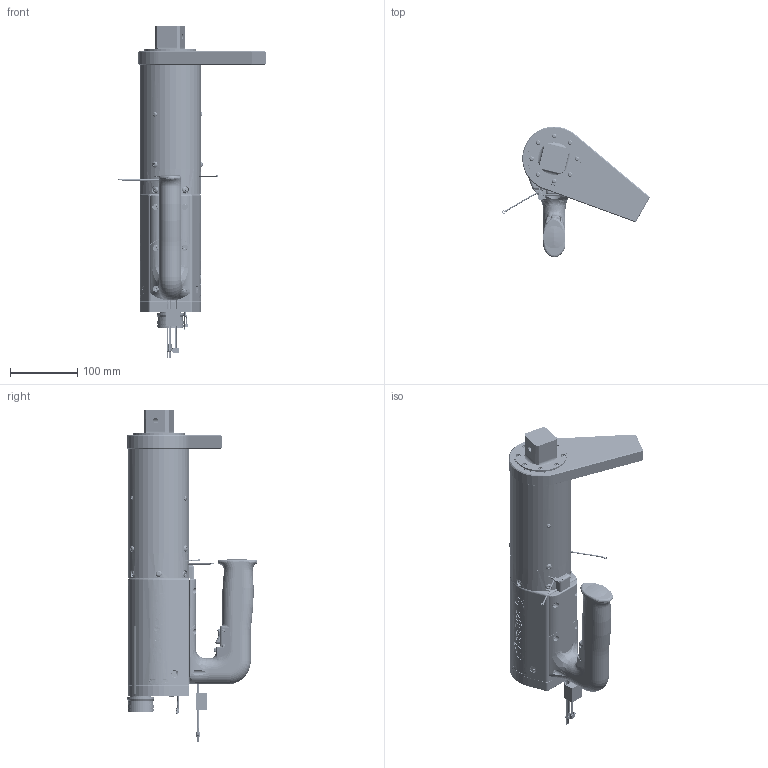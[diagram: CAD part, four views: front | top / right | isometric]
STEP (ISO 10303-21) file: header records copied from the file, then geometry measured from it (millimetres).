
FILE_DESCRIPTION (( 'STEP AP214' ), '1' );
FILE_NAME ('AEJ4W885000B.STEP', '2024-06-12T21:23:22', ( '' ), ( '' ), 'SwSTEP 2.0', 'SolidWorks 2024', '' );
FILE_SCHEMA (( 'AUTOMOTIVE_DESIGN' ));
Length unit declared in the file: inch
Products named in the file (178): 27228; 27953; 25732; Omnetics (PS1-04-WD-18.0-C-G-LE-RoHS) for HT Angle Tool; 27988; PS1-04-WD-18.0-C-G-LE-RoHS_PS1_Body; 25356; 25807_91985A331; 28000; 25484; 27980; 25481-HT Anglehead 1000Nm 6 inches long; 27070; DOWEL PIN, Ø9mm, STEEL_45mm; 27971; Amphenol 97-3106-22-maleside-key_NO RING; Slip Ring board wire 4; 25357; 25423; Omnetics-Will be assigned when order is placed (SSB-04-WD-18.0-C-G-LE-RoHS)_SSB_Socket(WD); 25195; 25641; 25568_91251A349; 25485; 25569_25569; PS1-04-WD-18.0-C-G-LE-RoHS_ps1_epoxy; 24840; 25825_EXPLODED; 25579; 25977; 24173 FOR 25505; 28174; 20907; PS1-04-WD-18.0-C-G-LE-RoHS)_PS1_contact(WD); 26898; 27739_PLANET GEAR, 19T; 27983; SCREW, FHPM 2-56, 18-8SS, PLAIN_91771A076; Omnetics-Will be assigned when order is placed (SSB-04-WD-18.0-C-G-LE-RoHS)_SSB_Body(no holes); 23961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
Assembly tree (494 placements, depth 6):
  AEJ4W885000B
    31196
      27988
        25352
        28551
          Omnetics-Will be assigned when order is placed (SSB-04-WD-18.0-C-G-LE-RoHS)_SSB_Body(no holes)
          Omnetics-Will be assigned when order is placed (SSB-04-WD-18.0-C-G-LE-RoHS)_SSB_Socket(WD)
          Omnetics-Will be assigned when order is placed (SSB-04-WD-18.0-C-G-LE-RoHS)_SSB_Socket(WD)
          Omnetics-Will be assigned when order is placed (SSB-04-WD-18.0-C-G-LE-RoHS)_SSB_Socket(WD)
          Omnetics-Will be assigned when order is placed (SSB-04-WD-18.0-C-G-LE-RoHS)_SSB_Socket(WD)
          Omnetics-Will be assigned when order is placed (SSB-04-WD-18.0-C-G-LE-RoHS)_Guide_Pin
          Omnetics-Will be assigned when order is placed (SSB-04-WD-18.0-C-G-LE-RoHS)_Latch
          Omnetics-Will be assigned when order is placed (SSB-04-WD-18.0-C-G-LE-RoHS)_epoxy(Default)
          25481-HT Anglehead 1000Nm 6 inches long
          Omnetics shrink tube
        27064
        25484
        25485  x8
      25394
        25353
        25641
      25356
      25357
        26011
          25793
          25365
        25359  x6
        DOWEL PIN, Ø9mm, STEEL_45mm  x6
        25794_DEFAULT
      25362
      25367
        25792  x96
        DOWEL PIN, Ø10mm, STEEL_26MM  x4
        26010
          25368
          25369
        25370  x4
        25642_91665A570
      27765
        25977  x57
        27739_PLANET GEAR, 19T  x3
        SPACER, Ø.313 X Ø.166 X .406  x3
        27740
        SCREW, BHSC, M4, STEEL_16mm  x3
        27766
          27738
          25375
        DOWEL PIN, Ø8mm, STEEL_18mm  x3
      27767
        26428_Planet_Revolving_Follower01  x3
        26264  x3
        27741
        20907  x4
        DOWEL PIN, Ø250, STEEL_2.25
      28822
      31801_97763A231  x6
      25807_91985A331
      25808
      26538
      27758
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Bounding box: 220.73 x 194.65 x 494.74 mm (x, y, z)
Volume: 2274026.6 mm3; surface area: 1026830.7 mm2
Topology: 623 solids, 682 shells, 24643 faces, 62439 edges, 39223 vertices
Faces by surface type: plane 9577, cylinder 7424, bspline 2624, cone 2377, torus 2268, sphere 373
Entity records: 600794 total; most frequent: CARTESIAN_POINT 218006, ORIENTED_EDGE 81282, DIRECTION 72704, EDGE_CURVE 40641, VERTEX_POINT 25985, AXIS2_PLACEMENT_3D 25083, LINE 22538, VECTOR 22538
